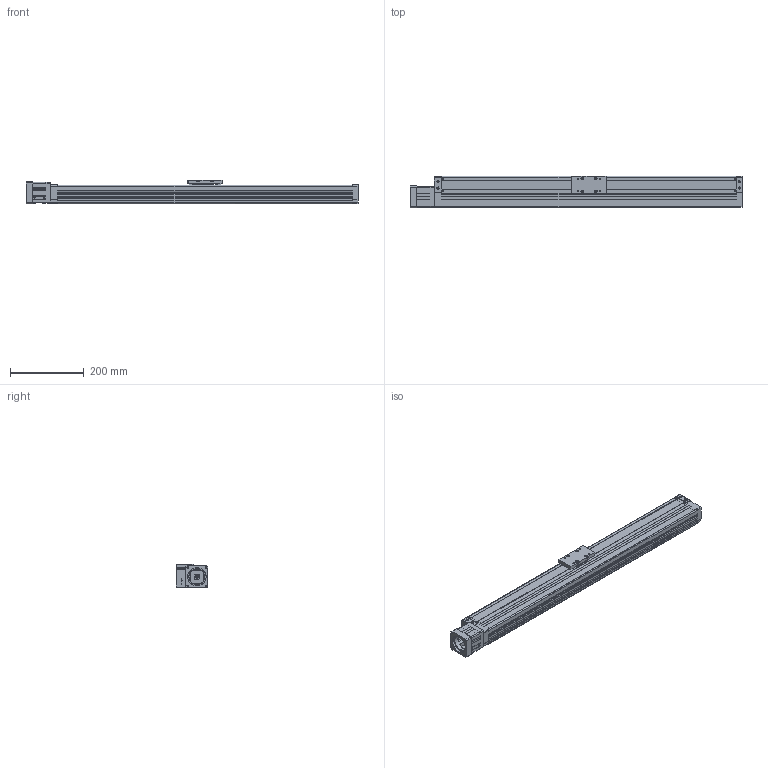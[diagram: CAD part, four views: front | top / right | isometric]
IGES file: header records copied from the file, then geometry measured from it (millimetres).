
Global section: file name: No Iges File Name specified; native system: AutoDesk Inventor R10; preprocessor: AutoDesk Inventor Iges Exporter R10; author: No Author specified; organization: No Organization specified; date: 20110701.175359; units: millimetre
Bounding box: 901 x 86.45 x 65 mm (x, y, z)
Surface area: 561063.4 mm2 (no closed solid volume)
Topology: 0 solids, 0 shells, 954 faces, 6014 edges, 5990 vertices
Faces by surface type: bspline 954
